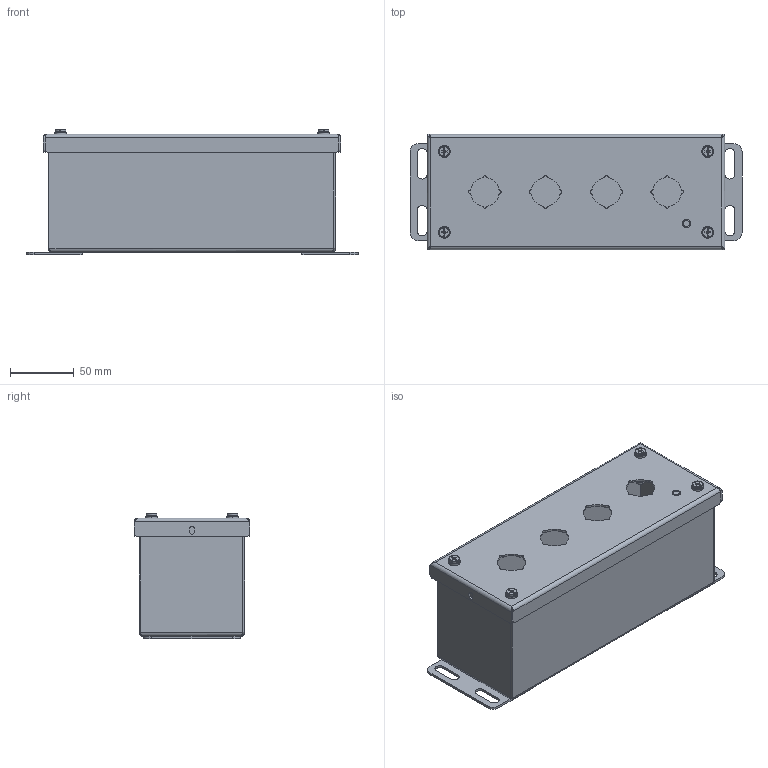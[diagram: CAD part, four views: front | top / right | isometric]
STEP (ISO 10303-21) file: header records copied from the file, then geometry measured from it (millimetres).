
FILE_DESCRIPTION((''),'2;1');
FILE_NAME('MODEL-335_ASM','2025-09-12T14:26:50',('richards'),('SAGINAW CONTROL & ENGINEERING'),'CREO PARAMETRIC BY PTC INC, 2021284','CREO PARAMETRIC BY PTC INC, 2021284','');
FILE_SCHEMA(('AUTOMOTIVE_DESIGN { 1 0 10303 214 1 1 1 1 }'));
Length unit declared in the file: inch
Products named in the file (10): MODEL-335-BDY; MODEL-335-DR; 100063; 102145; 101966; 100009; 100983; 102534; MODEL-335-GSKT; MODEL-335_ASM
Assembly tree (16 placements, depth 2):
  MODEL-335_ASM
    MODEL-335-BDY
    MODEL-335-DR
    100063
    102145  x2
    101966
    100009
    100983  x4
    102534  x4
    MODEL-335-GSKT
Bounding box: 260.35 x 90.49 x 98.39 mm (x, y, z)
Volume: 180337.5 mm3; surface area: 237855 mm2
Topology: 19 solids, 19 shells, 774 faces, 1935 edges, 1146 vertices
Faces by surface type: cylinder 288, plane 278, bspline 100, torus 80, cone 28
Entity records: 22787 total; most frequent: CARTESIAN_POINT 6013, DIRECTION 2419, ORIENTED_EDGE 2318, EDGE_CURVE 1159, PRESENTATION_STYLE_ASSIGNMENT 1071, STYLED_ITEM 1071, CURVE_STYLE 995, AXIS2_PLACEMENT_3D 889
